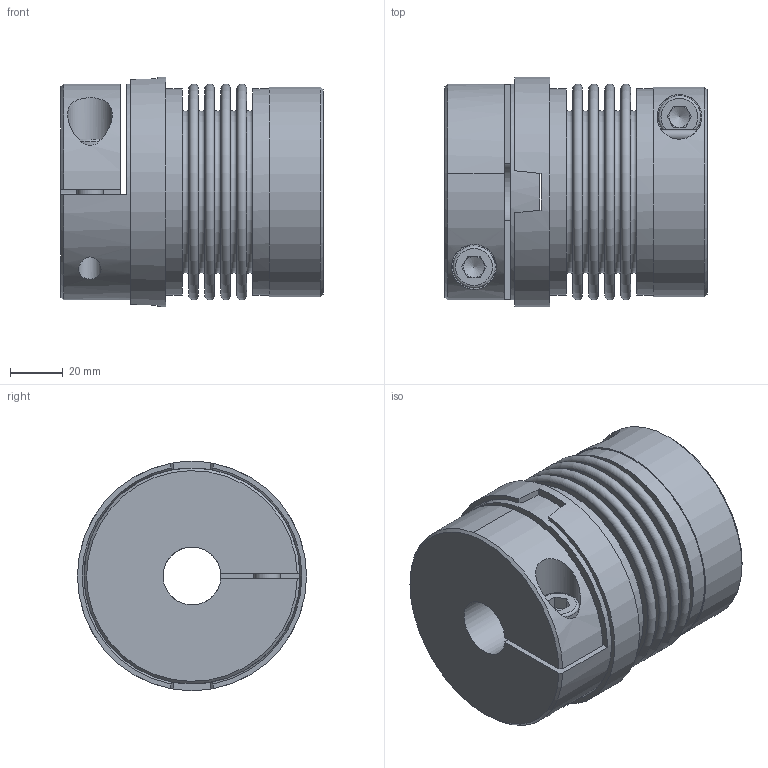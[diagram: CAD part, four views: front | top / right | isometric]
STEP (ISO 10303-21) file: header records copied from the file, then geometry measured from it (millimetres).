
FILE_DESCRIPTION( ( 'Unknown' ), '1' );
FILE_NAME( 'F:/JAKOB-STEP+IGES-Dateien/STEP-Dateien/KPP/KPP 170.stp', 'Unknown', ( 'Unknown' ), ( 'Unknown' ), 'PSStep 10.1', 'Unknown', ' ' );
FILE_SCHEMA( ( 'AUTOMOTIVE_DESIGN { 1 0 10303 214 1 1 1 1 }' ) );
Length unit declared in the file: millimetre
Products named in the file (1): 21216661
Bounding box: 99.5 x 87 x 87 mm (x, y, z)
Volume: 328762.6 mm3; surface area: 110020.2 mm2
Topology: 1 solids, 1 shells, 142 faces, 336 edges, 218 vertices
Faces by surface type: plane 89, cylinder 25, torus 22, cone 6
Full cylindrical faces by diameter (mm): 8.5 x2, 10 x2, 10.5 x2, 16 x2, 17 x2, 22 x1, 45 x1, 78.5 x2, 82 x1, 87 x1
Entity records: 5313 total; most frequent: CARTESIAN_POINT 1058, DIRECTION 690, ORIENTED_EDGE 550, AXIS2_PLACEMENT_3D 282, EDGE_CURVE 275, EDGE_LOOP 212, VERTEX_POINT 199, FACE_OUTER_BOUND 177
